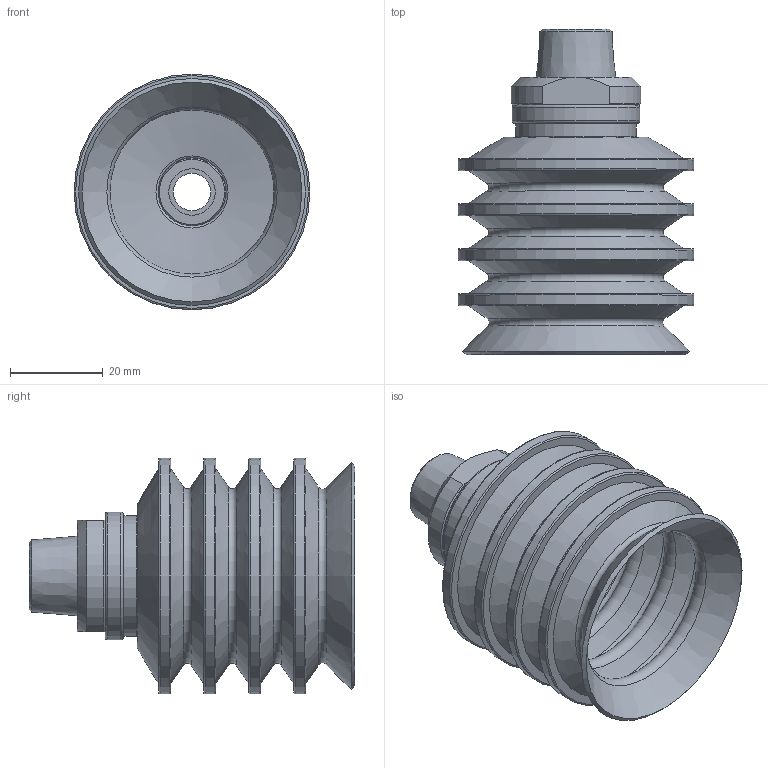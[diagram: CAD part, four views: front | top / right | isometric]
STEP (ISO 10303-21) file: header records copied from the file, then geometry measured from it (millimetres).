
FILE_DESCRIPTION (( 'STEP AP214' ), '1' );
FILE_NAME ('PMB50-38MS.STEP', '2025-10-23T14:01:39', ( '' ), ( '' ), 'SwSTEP 2.0', 'SolidWorks 2025', '' );
FILE_SCHEMA (( 'AUTOMOTIVE_DESIGN' ));
Length unit declared in the file: inch
Products named in the file (6): PMB50; PMB50-38MS; PMB50 RING.STEP; 403.012; PMB50_1.STEP; PMB50.STEP
Assembly tree (5 placements, depth 4):
  PMB50-38MS
    PMB50
      PMB50.STEP
        PMB50_1.STEP
        PMB50 RING.STEP
    403.012
Bounding box: 50.77 x 70.16 x 50.77 mm (x, y, z)
Volume: 23067.5 mm3; surface area: 27045.8 mm2
Topology: 3 solids, 3 shells, 106 faces, 201 edges, 119 vertices
Faces by surface type: torus 27, plane 26, cylinder 22, bspline 17, cone 14
Full cylindrical faces by diameter (mm): 8 x1, 10.733 x1, 12.384 x1, 14.654 x1, 19.608 x1, 20 x1, 26 x1, 27.451 x1, 50.774 x4
Entity records: 2995 total; most frequent: CARTESIAN_POINT 908, DIRECTION 442, ORIENTED_EDGE 278, AXIS2_PLACEMENT_3D 212, EDGE_LOOP 190, FACE_OUTER_BOUND 160, EDGE_CURVE 139, VERTEX_POINT 117
